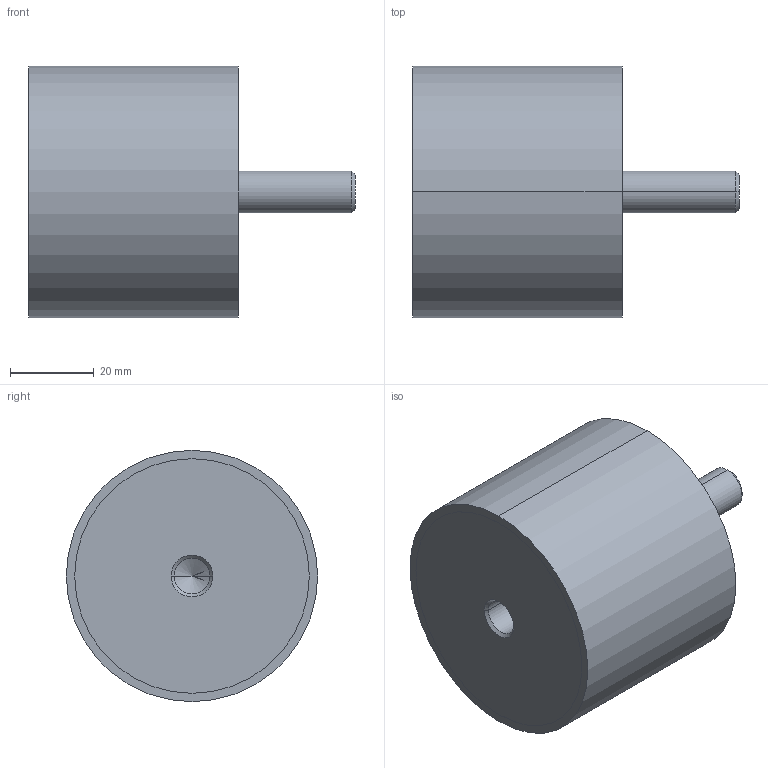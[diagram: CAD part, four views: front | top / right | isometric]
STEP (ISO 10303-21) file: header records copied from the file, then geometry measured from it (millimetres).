
FILE_DESCRIPTION (( 'STEP AP214' ), '1' );
FILE_NAME ('351-60-50-M10-ES-70.step', '2025-07-23T09:43:25', ( '' ), ( '' ), 'SwSTEP 2.0', 'SolidWorks 2022', '' );
FILE_SCHEMA (( 'AUTOMOTIVE_DESIGN' ));
Length unit declared in the file: millimetre
Products named in the file (1): 351-60-50-M10-ES-70
Bounding box: 78 x 60 x 60 mm (x, y, z)
Volume: 142821.8 mm3; surface area: 16240.5 mm2
Topology: 1 solids, 1 shells, 24 faces, 48 edges, 29 vertices
Faces by surface type: cylinder 12, cone 6, plane 6
Entity records: 740 total; most frequent: DIRECTION 124, CARTESIAN_POINT 100, ORIENTED_EDGE 92, AXIS2_PLACEMENT_3D 53, EDGE_CURVE 46, EDGE_LOOP 29, VERTEX_POINT 29, CIRCLE 28
